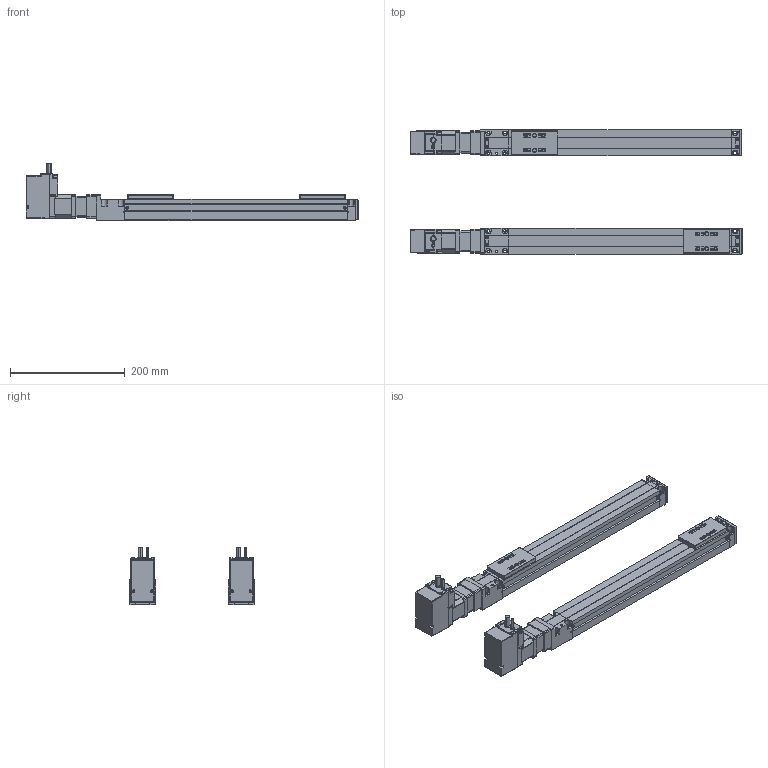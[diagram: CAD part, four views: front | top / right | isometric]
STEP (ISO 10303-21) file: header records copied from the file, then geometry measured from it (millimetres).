
FILE_DESCRIPTION(('STEP AP214'),'1');
FILE_NAME('K:\外形図\3D_DAD2\SCLT4_SBR\tmp0.step',' ',(' '),(' '),'XStep 1.0',' ',' ');
FILE_SCHEMA(('automotive_design'));
Length unit declared in the file: millimetre
Bounding box: 578.67 x 216.56 x 100.06 mm (x, y, z)
Volume: 2068805.1 mm3; surface area: 431691.4 mm2
Topology: 75 solids, 75 shells, 4185 faces, 11182 edges, 7078 vertices
Faces by surface type: plane 1957, cylinder 1672, torus 260, bspline 208, cone 48, sphere 40
Entity records: 177062 total; most frequent: CARTESIAN_POINT 35234, DIRECTION 23034, ORIENTED_EDGE 22220, EDGE_CURVE 11102, AXIS2_PLACEMENT_3D 8018, VERTEX_POINT 7078, LINE 6998, VECTOR 6998
